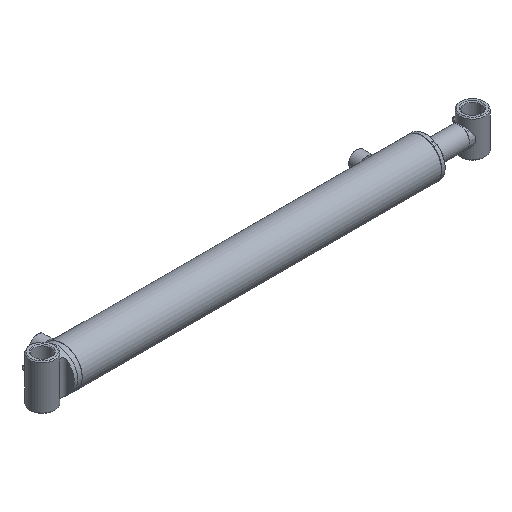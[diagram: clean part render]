
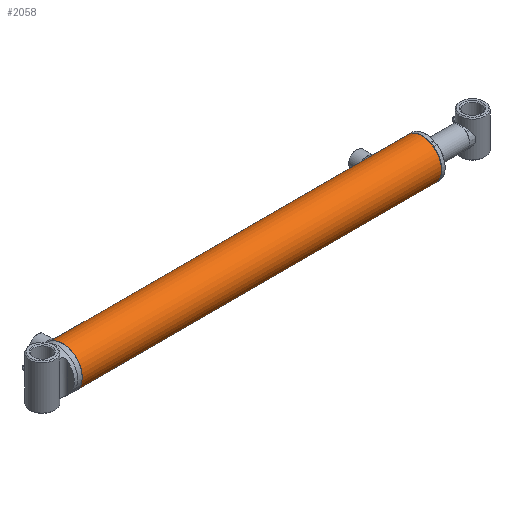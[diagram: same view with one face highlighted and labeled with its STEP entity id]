
A CAD part, isometric view. The second image highlights one B-rep face of the part: STEP entity #2058.
In plain terms, the highlighted cylindrical face has radius 30.163 mm (diameter 60.325 mm), a full revolution.
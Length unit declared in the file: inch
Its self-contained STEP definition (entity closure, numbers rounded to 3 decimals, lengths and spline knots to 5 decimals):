
#377=FACE_BOUND('',#700,.T.);
#378=FACE_BOUND('',#701,.T.);
#379=FACE_BOUND('',#702,.T.);
#500=FACE_OUTER_BOUND('',#699,.T.);
#699=EDGE_LOOP('',(#1636));
#700=EDGE_LOOP('',(#1637));
#701=EDGE_LOOP('',(#1638));
#702=EDGE_LOOP('',(#1639));
#908=CIRCLE('',#2250,1.1875);
#912=CIRCLE('',#2258,1.1875);
#1027=B_SPLINE_CURVE_WITH_KNOTS('',3,(#4717,#4718,#4719,#4720,#4721,#4722,
#4723,#4724,#4725,#4726,#4727,#4728,#4729,#4730,#4731,#4732,#4733,#4734,
#4735,#4736,#4737,#4738,#4739,#4740,#4741,#4742,#4743,#4744,#4745,#4746,
#4747,#4748,#4749,#4750),.UNSPECIFIED.,.T.,.F.,(4,2,2,2,2,2,2,2,2,2,2,2,
2,2,2,2,4),(0.,0.18872,0.37744,0.56616,0.75487,
0.94359,1.1323,1.32102,1.50975,1.69847,
1.88719,2.0759,2.26462,2.45333,2.64205,
2.83077,3.01949),.UNSPECIFIED.);
#1029=B_SPLINE_CURVE_WITH_KNOTS('',3,(#4940,#4941,#4942,#4943,#4944,#4945,
#4946,#4947,#4948,#4949,#4950,#4951,#4952,#4953,#4954,#4955,#4956,#4957,
#4958,#4959,#4960,#4961,#4962,#4963,#4964,#4965,#4966,#4967,#4968,#4969,
#4970,#4971,#4972,#4973),.UNSPECIFIED.,.T.,.F.,(4,2,2,2,2,2,2,2,2,2,2,2,
2,2,2,2,4),(0.,0.18872,0.37744,0.56616,0.75487,
0.94359,1.1323,1.32102,1.50975,1.69847,
1.88719,2.0759,2.26462,2.45333,2.64205,
2.83077,3.01949),.UNSPECIFIED.);
#1098=VERTEX_POINT('',#4716);
#1100=VERTEX_POINT('',#4939);
#1104=VERTEX_POINT('',#4983);
#1108=VERTEX_POINT('',#4995);
#1303=EDGE_CURVE('',#1098,#1098,#1027,.T.);
#1306=EDGE_CURVE('',#1100,#1100,#1029,.T.);
#1310=EDGE_CURVE('',#1104,#1104,#908,.T.);
#1314=EDGE_CURVE('',#1108,#1108,#912,.T.);
#1636=ORIENTED_EDGE('',*,*,#1314,.T.);
#1637=ORIENTED_EDGE('',*,*,#1303,.T.);
#1638=ORIENTED_EDGE('',*,*,#1306,.T.);
#1639=ORIENTED_EDGE('',*,*,#1310,.F.);
#1980=CYLINDRICAL_SURFACE('',#2260,1.1875);
#2058=ADVANCED_FACE('',(#500,#377,#378,#379),#1980,.T.);
#2250=AXIS2_PLACEMENT_3D('',#4984,#2627,#2628);
#2258=AXIS2_PLACEMENT_3D('',#4996,#2643,#2644);
#2260=AXIS2_PLACEMENT_3D('',#4998,#2647,#2648);
#2627=DIRECTION('center_axis',(1.,0.,0.));
#2628=DIRECTION('ref_axis',(0.,-1.,0.));
#2643=DIRECTION('center_axis',(1.,0.,0.));
#2644=DIRECTION('ref_axis',(0.,-1.,0.));
#2647=DIRECTION('center_axis',(1.,0.,0.));
#2648=DIRECTION('ref_axis',(0.,-1.,0.));
#4716=CARTESIAN_POINT('',(8.94094,1.17107,-0.19685));
#4717=CARTESIAN_POINT('Ctrl Pts',(8.94094,1.17107,-0.19685));
#4718=CARTESIAN_POINT('Ctrl Pts',(8.96571,1.17107,-0.19685));
#4719=CARTESIAN_POINT('Ctrl Pts',(8.9921,1.17194,-0.19189));
#4720=CARTESIAN_POINT('Ctrl Pts',(9.04058,1.17505,-0.17179));
#4721=CARTESIAN_POINT('Ctrl Pts',(9.06269,1.17725,-0.15665));
#4722=CARTESIAN_POINT('Ctrl Pts',(9.09759,1.18137,-0.12174));
#4723=CARTESIAN_POINT('Ctrl Pts',(9.11273,1.18356,-0.09964));
#4724=CARTESIAN_POINT('Ctrl Pts',(9.13284,1.18665,-0.05115));
#4725=CARTESIAN_POINT('Ctrl Pts',(9.1378,1.1875,-0.02477));
#4726=CARTESIAN_POINT('Ctrl Pts',(9.1378,1.1875,0.02477));
#4727=CARTESIAN_POINT('Ctrl Pts',(9.13284,1.18665,0.05115));
#4728=CARTESIAN_POINT('Ctrl Pts',(9.11273,1.18356,0.09964));
#4729=CARTESIAN_POINT('Ctrl Pts',(9.09759,1.18137,0.12174));
#4730=CARTESIAN_POINT('Ctrl Pts',(9.06269,1.17725,0.15665));
#4731=CARTESIAN_POINT('Ctrl Pts',(9.04058,1.17505,0.17179));
#4732=CARTESIAN_POINT('Ctrl Pts',(8.9921,1.17194,0.19189));
#4733=CARTESIAN_POINT('Ctrl Pts',(8.96571,1.17107,0.19685));
#4734=CARTESIAN_POINT('Ctrl Pts',(8.91618,1.17107,0.19685));
#4735=CARTESIAN_POINT('Ctrl Pts',(8.88979,1.17194,0.19189));
#4736=CARTESIAN_POINT('Ctrl Pts',(8.84131,1.17505,0.17179));
#4737=CARTESIAN_POINT('Ctrl Pts',(8.8192,1.17725,0.15665));
#4738=CARTESIAN_POINT('Ctrl Pts',(8.7843,1.18137,0.12174));
#4739=CARTESIAN_POINT('Ctrl Pts',(8.76916,1.18356,0.09964));
#4740=CARTESIAN_POINT('Ctrl Pts',(8.74905,1.18665,0.05115));
#4741=CARTESIAN_POINT('Ctrl Pts',(8.74409,1.1875,0.02477));
#4742=CARTESIAN_POINT('Ctrl Pts',(8.74409,1.1875,-0.02477));
#4743=CARTESIAN_POINT('Ctrl Pts',(8.74905,1.18665,-0.05115));
#4744=CARTESIAN_POINT('Ctrl Pts',(8.76916,1.18356,-0.09964));
#4745=CARTESIAN_POINT('Ctrl Pts',(8.7843,1.18137,-0.12174));
#4746=CARTESIAN_POINT('Ctrl Pts',(8.8192,1.17725,-0.15665));
#4747=CARTESIAN_POINT('Ctrl Pts',(8.84131,1.17505,-0.17179));
#4748=CARTESIAN_POINT('Ctrl Pts',(8.88979,1.17194,-0.19189));
#4749=CARTESIAN_POINT('Ctrl Pts',(8.91618,1.17107,-0.19685));
#4750=CARTESIAN_POINT('Ctrl Pts',(8.94094,1.17107,-0.19685));
#4939=CARTESIAN_POINT('',(-10.35827,1.17107,-0.19685));
#4940=CARTESIAN_POINT('Ctrl Pts',(-10.35827,1.17107,-0.19685));
#4941=CARTESIAN_POINT('Ctrl Pts',(-10.3335,1.17107,-0.19685));
#4942=CARTESIAN_POINT('Ctrl Pts',(-10.30712,1.17194,-0.19189));
#4943=CARTESIAN_POINT('Ctrl Pts',(-10.25863,1.17505,-0.17179));
#4944=CARTESIAN_POINT('Ctrl Pts',(-10.23653,1.17725,-0.15665));
#4945=CARTESIAN_POINT('Ctrl Pts',(-10.20162,1.18137,-0.12174));
#4946=CARTESIAN_POINT('Ctrl Pts',(-10.18648,1.18356,-0.09964));
#4947=CARTESIAN_POINT('Ctrl Pts',(-10.16638,1.18665,-0.05115));
#4948=CARTESIAN_POINT('Ctrl Pts',(-10.16142,1.1875,-0.02477));
#4949=CARTESIAN_POINT('Ctrl Pts',(-10.16142,1.1875,0.02477));
#4950=CARTESIAN_POINT('Ctrl Pts',(-10.16638,1.18665,0.05115));
#4951=CARTESIAN_POINT('Ctrl Pts',(-10.18648,1.18356,0.09964));
#4952=CARTESIAN_POINT('Ctrl Pts',(-10.20162,1.18137,0.12174));
#4953=CARTESIAN_POINT('Ctrl Pts',(-10.23653,1.17725,0.15665));
#4954=CARTESIAN_POINT('Ctrl Pts',(-10.25863,1.17505,0.17179));
#4955=CARTESIAN_POINT('Ctrl Pts',(-10.30712,1.17194,0.19189));
#4956=CARTESIAN_POINT('Ctrl Pts',(-10.3335,1.17107,0.19685));
#4957=CARTESIAN_POINT('Ctrl Pts',(-10.38303,1.17107,0.19685));
#4958=CARTESIAN_POINT('Ctrl Pts',(-10.40942,1.17194,0.19189));
#4959=CARTESIAN_POINT('Ctrl Pts',(-10.45791,1.17505,0.17179));
#4960=CARTESIAN_POINT('Ctrl Pts',(-10.48001,1.17725,0.15665));
#4961=CARTESIAN_POINT('Ctrl Pts',(-10.51491,1.18137,0.12174));
#4962=CARTESIAN_POINT('Ctrl Pts',(-10.53006,1.18356,0.09964));
#4963=CARTESIAN_POINT('Ctrl Pts',(-10.55016,1.18665,0.05115));
#4964=CARTESIAN_POINT('Ctrl Pts',(-10.55512,1.1875,0.02477));
#4965=CARTESIAN_POINT('Ctrl Pts',(-10.55512,1.1875,-0.02477));
#4966=CARTESIAN_POINT('Ctrl Pts',(-10.55016,1.18665,-0.05115));
#4967=CARTESIAN_POINT('Ctrl Pts',(-10.53006,1.18356,-0.09964));
#4968=CARTESIAN_POINT('Ctrl Pts',(-10.51491,1.18137,-0.12174));
#4969=CARTESIAN_POINT('Ctrl Pts',(-10.48001,1.17725,-0.15665));
#4970=CARTESIAN_POINT('Ctrl Pts',(-10.45791,1.17505,-0.17179));
#4971=CARTESIAN_POINT('Ctrl Pts',(-10.40942,1.17194,-0.19189));
#4972=CARTESIAN_POINT('Ctrl Pts',(-10.38303,1.17107,-0.19685));
#4973=CARTESIAN_POINT('Ctrl Pts',(-10.35827,1.17107,-0.19685));
#4983=CARTESIAN_POINT('',(10.94882,1.1875,0.));
#4984=CARTESIAN_POINT('Origin',(10.94882,0.,0.));
#4995=CARTESIAN_POINT('',(-10.78494,1.1875,0.));
#4996=CARTESIAN_POINT('Origin',(-10.78494,0.,0.));
#4998=CARTESIAN_POINT('Origin',(0.,0.,0.));
